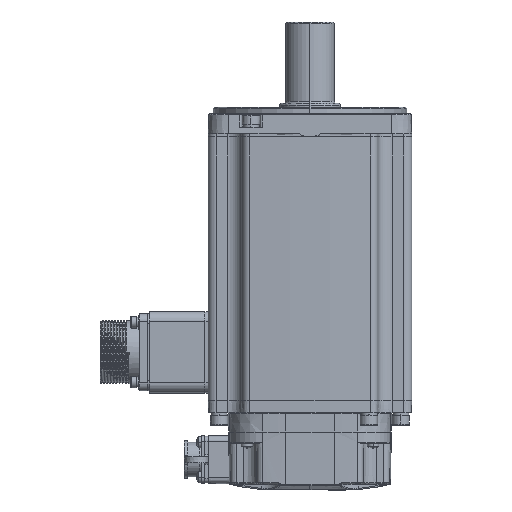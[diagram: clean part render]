
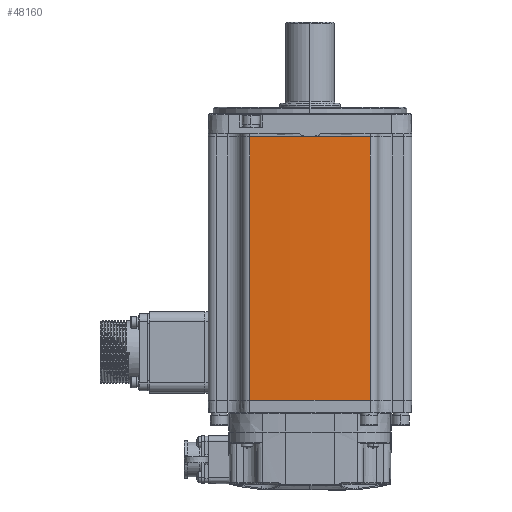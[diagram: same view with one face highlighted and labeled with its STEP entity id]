
A CAD part, left-side view. The second image highlights one B-rep face of the part: STEP entity #48160.
In plain terms, the highlighted cylindrical face has radius 500 mm (diameter 1000 mm), a partial arc.
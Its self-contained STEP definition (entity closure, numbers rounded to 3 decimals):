
#955 = EDGE_CURVE ( 'NONE', #66647, #35544, #40920, .T. ) ;
#979 = VECTOR ( 'NONE', #22398, 1000. ) ;
#5766 = ORIENTED_EDGE ( 'NONE', *, *, #955, .T. ) ;
#5922 = DIRECTION ( 'NONE',  ( 1., 0., 0. ) ) ;
#6883 = EDGE_LOOP ( 'NONE', ( #49364, #5766, #44145, #43423 ) ) ;
#9929 = CARTESIAN_POINT ( 'NONE',  ( -49.121, -29.637, -129.5 ) ) ;
#15850 = DIRECTION ( 'NONE',  ( 1., 0., 0. ) ) ;
#19755 = VERTEX_POINT ( 'NONE', #50478 ) ;
#21780 = CARTESIAN_POINT ( 'NONE',  ( -49.121, 29.637, -129.5 ) ) ;
#22398 = DIRECTION ( 'NONE',  ( 0., 0., -1. ) ) ;
#22577 = AXIS2_PLACEMENT_3D ( 'NONE', #74872, #68598, #15850 ) ;
#25631 = AXIS2_PLACEMENT_3D ( 'NONE', #46445, #71877, #40223 ) ;
#27314 = EDGE_CURVE ( 'NONE', #78845, #19755, #80678, .T. ) ;
#30726 = CARTESIAN_POINT ( 'NONE',  ( -49.121, 29.637, -129.5 ) ) ;
#34605 = CYLINDRICAL_SURFACE ( 'NONE', #22577, 500. ) ;
#34802 = CARTESIAN_POINT ( 'NONE',  ( -49.121, -29.637, 0. ) ) ;
#35544 = VERTEX_POINT ( 'NONE', #30726 ) ;
#36244 = AXIS2_PLACEMENT_3D ( 'NONE', #50446, #75867, #5922 ) ;
#40223 = DIRECTION ( 'NONE',  ( 1., 0., 0. ) ) ;
#40920 = LINE ( 'NONE', #21780, #75734 ) ;
#43423 = ORIENTED_EDGE ( 'NONE', *, *, #27314, .F. ) ;
#44145 = ORIENTED_EDGE ( 'NONE', *, *, #78902, .T. ) ;
#46445 = CARTESIAN_POINT ( 'NONE',  ( 450., 0., -129.5 ) ) ;
#48160 = ADVANCED_FACE ( 'NONE', ( #66249 ), #34605, .T. ) ;
#49364 = ORIENTED_EDGE ( 'NONE', *, *, #51774, .F. ) ;
#50446 = CARTESIAN_POINT ( 'NONE',  ( 450., 0., 0. ) ) ;
#50478 = CARTESIAN_POINT ( 'NONE',  ( -49.121, -29.637, -129.5 ) ) ;
#51774 = EDGE_CURVE ( 'NONE', #66647, #78845, #72156, .T. ) ;
#59666 = DIRECTION ( 'NONE',  ( 0., 0., -1. ) ) ;
#65545 = CIRCLE ( 'NONE', #25631, 500. ) ;
#66249 = FACE_OUTER_BOUND ( 'NONE', #6883, .T. ) ;
#66647 = VERTEX_POINT ( 'NONE', #81409 ) ;
#68598 = DIRECTION ( 'NONE',  ( 0., 0., 1. ) ) ;
#71877 = DIRECTION ( 'NONE',  ( 0., 0., 1. ) ) ;
#72156 = CIRCLE ( 'NONE', #36244, 500. ) ;
#74872 = CARTESIAN_POINT ( 'NONE',  ( 450., 0., -129.5 ) ) ;
#75734 = VECTOR ( 'NONE', #59666, 1000. ) ;
#75867 = DIRECTION ( 'NONE',  ( 0., 0., 1. ) ) ;
#78845 = VERTEX_POINT ( 'NONE', #34802 ) ;
#78902 = EDGE_CURVE ( 'NONE', #35544, #19755, #65545, .T. ) ;
#80678 = LINE ( 'NONE', #9929, #979 ) ;
#81409 = CARTESIAN_POINT ( 'NONE',  ( -49.121, 29.637, 0. ) ) ;
